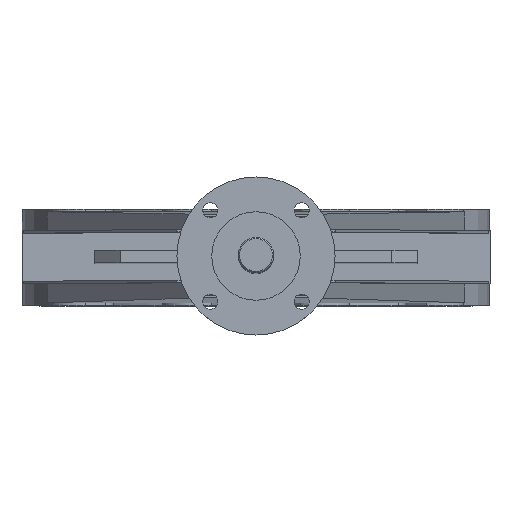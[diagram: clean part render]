
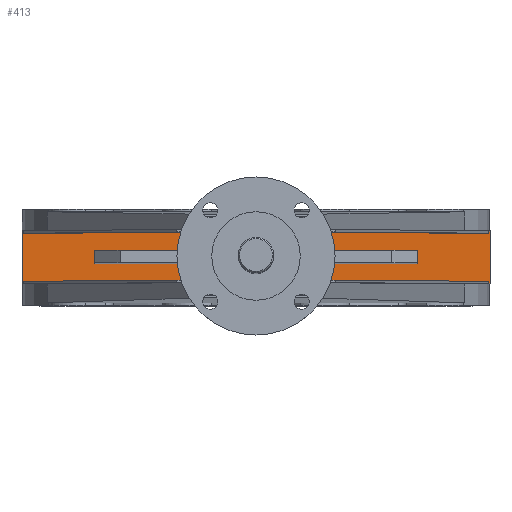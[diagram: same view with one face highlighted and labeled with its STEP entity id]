
A CAD part, top view. The second image highlights one B-rep face of the part: STEP entity #413.
In plain terms, the highlighted planar face has unit normal (0, 0, 1).
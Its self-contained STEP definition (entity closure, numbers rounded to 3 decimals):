
#413=ADVANCED_FACE('',(#2144,#2146),#2148,.T.);
#2144=FACE_BOUND('',#2145,.T.);
#2145=EDGE_LOOP('',(#3579,#3580,#3581,#3582,#3583,#3584,#3585,#3586,#3587,#3588,
#3589,#3590,#3591,#3592,#3593,#3594,#3595,#3596,#3597,#3598));
#2146=FACE_BOUND('',#2147,.T.);
#2147=EDGE_LOOP('',(#3599,#3600,#3601,#3602));
#2148=PLANE('',#2149);
#2149=AXIS2_PLACEMENT_3D('',#2150,#2151,#2152);
#2150=CARTESIAN_POINT('',(0.,0.,222.5));
#2151=DIRECTION('',(0.,0.,1.));
#2152=DIRECTION('',(0.,1.,0.));
#3579=ORIENTED_EDGE('',*,*,#4531,.F.);
#3580=ORIENTED_EDGE('',*,*,#4532,.F.);
#3581=ORIENTED_EDGE('',*,*,#4533,.F.);
#3582=ORIENTED_EDGE('',*,*,#4534,.T.);
#3583=ORIENTED_EDGE('',*,*,#4535,.F.);
#3584=ORIENTED_EDGE('',*,*,#4536,.F.);
#3585=ORIENTED_EDGE('',*,*,#4537,.F.);
#3586=ORIENTED_EDGE('',*,*,#4538,.T.);
#3587=ORIENTED_EDGE('',*,*,#4539,.T.);
#3588=ORIENTED_EDGE('',*,*,#4540,.T.);
#3589=ORIENTED_EDGE('',*,*,#4490,.F.);
#3590=ORIENTED_EDGE('',*,*,#4486,.F.);
#3591=ORIENTED_EDGE('',*,*,#4484,.F.);
#3592=ORIENTED_EDGE('',*,*,#4492,.T.);
#3593=ORIENTED_EDGE('',*,*,#4507,.F.);
#3594=ORIENTED_EDGE('',*,*,#4508,.F.);
#3595=ORIENTED_EDGE('',*,*,#4503,.F.);
#3596=ORIENTED_EDGE('',*,*,#4541,.T.);
#3597=ORIENTED_EDGE('',*,*,#4542,.T.);
#3598=ORIENTED_EDGE('',*,*,#4543,.T.);
#3599=ORIENTED_EDGE('',*,*,#4544,.F.);
#3600=ORIENTED_EDGE('',*,*,#4545,.F.);
#3601=ORIENTED_EDGE('',*,*,#4546,.F.);
#3602=ORIENTED_EDGE('',*,*,#4547,.F.);
#4484=EDGE_CURVE('',#5068,#5070,#5071,.T.);
#4486=EDGE_CURVE('',#5070,#5073,#5074,.T.);
#4490=EDGE_CURVE('',#5073,#5076,#5079,.T.);
#4492=EDGE_CURVE('',#5068,#5080,#5082,.T.);
#4503=EDGE_CURVE('',#5100,#5102,#5103,.T.);
#4507=EDGE_CURVE('',#5106,#5080,#5108,.T.);
#4508=EDGE_CURVE('',#5102,#5106,#5109,.T.);
#4531=EDGE_CURVE('',#5150,#5151,#5152,.F.);
#4532=EDGE_CURVE('',#5153,#5150,#5154,.F.);
#4533=EDGE_CURVE('',#5155,#5153,#5156,.F.);
#4534=EDGE_CURVE('',#5155,#5157,#5158,.T.);
#4535=EDGE_CURVE('',#5159,#5157,#5160,.F.);
#4536=EDGE_CURVE('',#5161,#5159,#5162,.F.);
#4537=EDGE_CURVE('',#5163,#5161,#5164,.F.);
#4538=EDGE_CURVE('',#5163,#5165,#5166,.T.);
#4539=EDGE_CURVE('',#5165,#5167,#5168,.T.);
#4540=EDGE_CURVE('',#5167,#5076,#5169,.T.);
#4541=EDGE_CURVE('',#5100,#5170,#5171,.T.);
#4542=EDGE_CURVE('',#5170,#5172,#5173,.T.);
#4543=EDGE_CURVE('',#5172,#5151,#5174,.T.);
#4544=EDGE_CURVE('',#5175,#5176,#5177,.T.);
#4545=EDGE_CURVE('',#5178,#5175,#5179,.F.);
#4546=EDGE_CURVE('',#5180,#5178,#5181,.T.);
#4547=EDGE_CURVE('',#5176,#5180,#5182,.T.);
#5068=VERTEX_POINT('',#6144);
#5070=VERTEX_POINT('',#6148);
#5071=LINE('',#6149,#6150);
#5073=VERTEX_POINT('',#6155);
#5074=LINE('',#6156,#6157);
#5076=VERTEX_POINT('',#6162);
#5079=LINE('',#6169,#6170);
#5080=VERTEX_POINT('',#6172);
#5082=LINE('',#6176,#6177);
#5100=VERTEX_POINT('',#6216);
#5102=VERTEX_POINT('',#6220);
#5103=LINE('',#6221,#6222);
#5106=VERTEX_POINT('',#6230);
#5108=LINE('',#6234,#6235);
#5109=LINE('',#6237,#6238);
#5150=VERTEX_POINT('',#6330);
#5151=VERTEX_POINT('',#6331);
#5152=LINE('',#6332,#6333);
#5153=VERTEX_POINT('',#6335);
#5154=LINE('',#6336,#6337);
#5155=VERTEX_POINT('',#6339);
#5156=LINE('',#6340,#6341);
#5157=VERTEX_POINT('',#6343);
#5158=LINE('',#6344,#6345);
#5159=VERTEX_POINT('',#6347);
#5160=LINE('',#6348,#6349);
#5161=VERTEX_POINT('',#6351);
#5162=LINE('',#6352,#6353);
#5163=VERTEX_POINT('',#6355);
#5164=LINE('',#6356,#6357);
#5165=VERTEX_POINT('',#6359);
#5166=LINE('',#6360,#6361);
#5167=VERTEX_POINT('',#6363);
#5168=LINE('',#6364,#6365);
#5169=LINE('',#6367,#6368);
#5170=VERTEX_POINT('',#6370);
#5171=LINE('',#6371,#6372);
#5172=VERTEX_POINT('',#6374);
#5173=LINE('',#6375,#6376);
#5174=LINE('',#6378,#6379);
#5175=VERTEX_POINT('',#6381);
#5176=VERTEX_POINT('',#6382);
#5177=LINE('',#6383,#6384);
#5178=VERTEX_POINT('',#6386);
#5179=LINE('',#6387,#6388);
#5180=VERTEX_POINT('',#6390);
#5181=LINE('',#6391,#6392);
#5182=LINE('',#6394,#6395);
#6144=CARTESIAN_POINT('',(161.939,20.,222.5));
#6148=CARTESIAN_POINT('',(161.939,19.,222.5));
#6149=CARTESIAN_POINT('',(161.939,20.,222.5));
#6150=VECTOR('',#6151,1.);
#6151=DIRECTION('',(0.,-1.,0.));
#6155=CARTESIAN_POINT('',(183.939,19.,222.5));
#6156=CARTESIAN_POINT('',(161.939,19.,222.5));
#6157=VECTOR('',#6158,1.);
#6158=DIRECTION('',(1.,0.,0.));
#6162=CARTESIAN_POINT('',(183.939,20.,222.5));
#6169=CARTESIAN_POINT('',(183.939,19.,222.5));
#6170=VECTOR('',#6171,1.);
#6171=DIRECTION('',(0.,1.,0.));
#6172=CARTESIAN_POINT('',(-161.939,20.,222.5));
#6176=CARTESIAN_POINT('',(161.939,20.,222.5));
#6177=VECTOR('',#6178,1.);
#6178=DIRECTION('',(-1.,0.,0.));
#6216=CARTESIAN_POINT('',(-183.939,20.,222.5));
#6220=CARTESIAN_POINT('',(-183.939,19.,222.5));
#6221=CARTESIAN_POINT('',(-183.939,20.,222.5));
#6222=VECTOR('',#6223,1.);
#6223=DIRECTION('',(0.,-1.,0.));
#6230=CARTESIAN_POINT('',(-161.939,19.,222.5));
#6234=CARTESIAN_POINT('',(-161.939,19.,222.5));
#6235=VECTOR('',#6236,1.);
#6236=DIRECTION('',(0.,1.,0.));
#6237=CARTESIAN_POINT('',(-183.939,19.,222.5));
#6238=VECTOR('',#6239,1.);
#6239=DIRECTION('',(1.,0.,0.));
#6330=CARTESIAN_POINT('',(-183.939,-19.,222.5));
#6331=CARTESIAN_POINT('',(-183.939,-20.,222.5));
#6332=CARTESIAN_POINT('',(-183.939,-20.,222.5));
#6333=VECTOR('',#6334,1.);
#6334=DIRECTION('',(0.,1.,0.));
#6335=CARTESIAN_POINT('',(-161.939,-19.,222.5));
#6336=CARTESIAN_POINT('',(-183.939,-19.,222.5));
#6337=VECTOR('',#6338,1.);
#6338=DIRECTION('',(1.,0.,0.));
#6339=CARTESIAN_POINT('',(-161.939,-20.,222.5));
#6340=CARTESIAN_POINT('',(-161.939,-19.,222.5));
#6341=VECTOR('',#6342,1.);
#6342=DIRECTION('',(0.,-1.,0.));
#6343=CARTESIAN_POINT('',(161.939,-20.,222.5));
#6344=CARTESIAN_POINT('',(-161.939,-20.,222.5));
#6345=VECTOR('',#6346,1.);
#6346=DIRECTION('',(1.,0.,0.));
#6347=CARTESIAN_POINT('',(161.939,-19.,222.5));
#6348=CARTESIAN_POINT('',(161.939,-20.,222.5));
#6349=VECTOR('',#6350,1.);
#6350=DIRECTION('',(0.,1.,0.));
#6351=CARTESIAN_POINT('',(183.939,-19.,222.5));
#6352=CARTESIAN_POINT('',(161.939,-19.,222.5));
#6353=VECTOR('',#6354,1.);
#6354=DIRECTION('',(1.,0.,0.));
#6355=CARTESIAN_POINT('',(183.939,-20.,222.5));
#6356=CARTESIAN_POINT('',(183.939,-19.,222.5));
#6357=VECTOR('',#6358,1.);
#6358=DIRECTION('',(0.,-1.,0.));
#6359=CARTESIAN_POINT('',(185.,-20.,222.5));
#6360=CARTESIAN_POINT('',(183.939,-20.,222.5));
#6361=VECTOR('',#6362,1.);
#6362=DIRECTION('',(1.,0.,0.));
#6363=CARTESIAN_POINT('',(185.,20.,222.5));
#6364=CARTESIAN_POINT('',(185.,-20.,222.5));
#6365=VECTOR('',#6366,1.);
#6366=DIRECTION('',(0.,1.,0.));
#6367=CARTESIAN_POINT('',(185.,20.,222.5));
#6368=VECTOR('',#6369,1.);
#6369=DIRECTION('',(-1.,0.,0.));
#6370=CARTESIAN_POINT('',(-185.,20.,222.5));
#6371=CARTESIAN_POINT('',(-183.939,20.,222.5));
#6372=VECTOR('',#6373,1.);
#6373=DIRECTION('',(-1.,0.,0.));
#6374=CARTESIAN_POINT('',(-185.,-20.,222.5));
#6375=CARTESIAN_POINT('',(-185.,20.,222.5));
#6376=VECTOR('',#6377,1.);
#6377=DIRECTION('',(0.,-1.,0.));
#6378=CARTESIAN_POINT('',(-185.,-20.,222.5));
#6379=VECTOR('',#6380,1.);
#6380=DIRECTION('',(1.,0.,0.));
#6381=CARTESIAN_POINT('',(-127.5,5.,222.5));
#6382=CARTESIAN_POINT('',(-127.5,-5.,222.5));
#6383=CARTESIAN_POINT('',(-127.5,5.,222.5));
#6384=VECTOR('',#6385,1.);
#6385=DIRECTION('',(0.,-1.,0.));
#6386=CARTESIAN_POINT('',(127.5,5.,222.5));
#6387=CARTESIAN_POINT('',(-127.5,5.,222.5));
#6388=VECTOR('',#6389,1.);
#6389=DIRECTION('',(1.,0.,0.));
#6390=CARTESIAN_POINT('',(127.5,-5.,222.5));
#6391=CARTESIAN_POINT('',(127.5,-5.,222.5));
#6392=VECTOR('',#6393,1.);
#6393=DIRECTION('',(0.,1.,0.));
#6394=CARTESIAN_POINT('',(-127.5,-5.,222.5));
#6395=VECTOR('',#6396,1.);
#6396=DIRECTION('',(1.,0.,0.));
